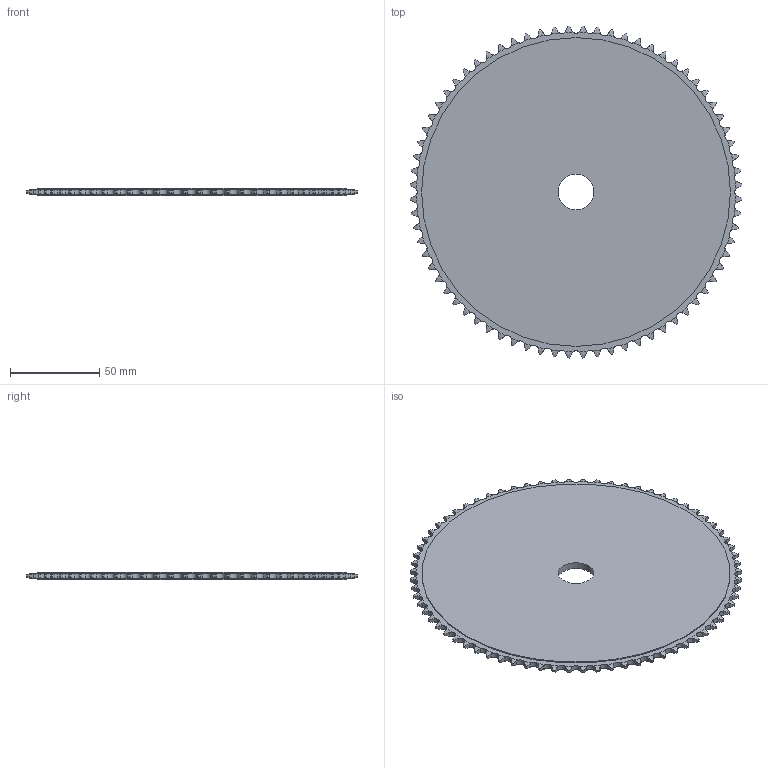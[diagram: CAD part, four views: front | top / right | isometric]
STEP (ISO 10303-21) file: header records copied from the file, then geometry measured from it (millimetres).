
FILE_DESCRIPTION((''),'2;1');
FILE_NAME('500-081-0072_PRT','2021-02-12T',('Brieden'),('Brieden'),'PRO/ENGINEER BY PARAMETRIC TECHNOLOGY CORPORATION, 2010160','PRO/ENGINEER BY PARAMETRIC TECHNOLOGY CORPORATION, 2010160','');
FILE_SCHEMA(('AUTOMOTIVE_DESIGN { 1 0 10303 214 1 1 1 1 }'));
Length unit declared in the file: millimetre
Products named in the file (1): 500-081-0072_PRT
Bounding box: 186.44 x 186.44 x 4 mm (x, y, z)
Volume: 99325.5 mm3; surface area: 54188.4 mm2
Topology: 1 solids, 1 shells, 442 faces, 1314 edges, 876 vertices
Faces by surface type: cylinder 294, torus 144, plane 4
Entity records: 20988 total; most frequent: CARTESIAN_POINT 5817, ORIENTED_EDGE 2628, DIRECTION 2066, PRESENTATION_STYLE_ASSIGNMENT 1315, STYLED_ITEM 1315, CURVE_STYLE 1314, EDGE_CURVE 1314, AXIS2_PLACEMENT_3D 886
